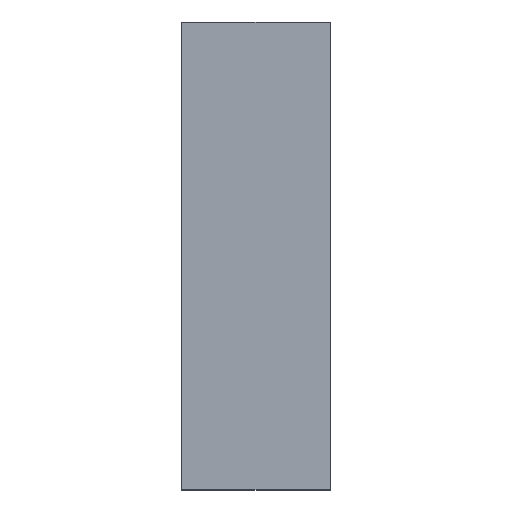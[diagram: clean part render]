
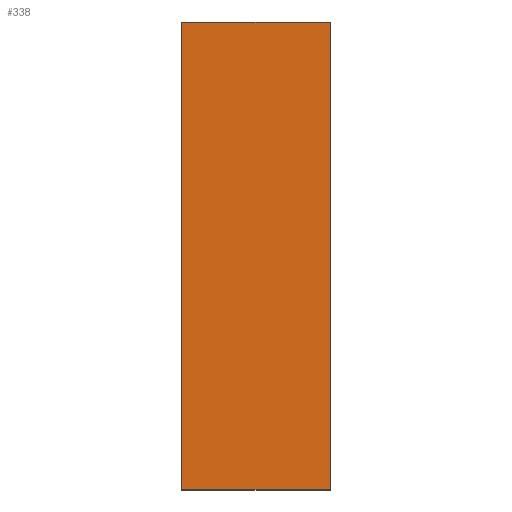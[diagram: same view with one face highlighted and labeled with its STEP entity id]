
A CAD part, top view. The second image highlights one B-rep face of the part: STEP entity #338.
In plain terms, the highlighted planar face has unit normal (0, 0, 1).
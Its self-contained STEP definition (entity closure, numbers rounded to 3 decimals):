
#24 = VERTEX_POINT('',#25);
#25 = CARTESIAN_POINT('',(130.,-138.913,79.475));
#32 = PLANE('',#33);
#33 = AXIS2_PLACEMENT_3D('',#34,#35,#36);
#34 = CARTESIAN_POINT('',(130.,-138.913,79.325));
#35 = DIRECTION('',(0.,1.,0.));
#36 = DIRECTION('',(1.,0.,0.));
#44 = PLANE('',#45);
#45 = AXIS2_PLACEMENT_3D('',#46,#47,#48);
#46 = CARTESIAN_POINT('',(130.,-94.913,79.325));
#47 = DIRECTION('',(1.,0.,-0.));
#48 = DIRECTION('',(0.,-1.,0.));
#56 = EDGE_CURVE('',#24,#57,#59,.T.);
#57 = VERTEX_POINT('',#58);
#58 = CARTESIAN_POINT('',(144.,-138.913,79.475));
#59 = SURFACE_CURVE('',#60,(#64,#71),.PCURVE_S1.);
#60 = LINE('',#61,#62);
#61 = CARTESIAN_POINT('',(130.,-138.913,79.475));
#62 = VECTOR('',#63,1.);
#63 = DIRECTION('',(1.,0.,0.));
#64 = PCURVE('',#32,#65);
#65 = DEFINITIONAL_REPRESENTATION('',(#66),#70);
#66 = LINE('',#67,#68);
#67 = CARTESIAN_POINT('',(0.,-0.15));
#68 = VECTOR('',#69,1.);
#69 = DIRECTION('',(1.,0.));
#70 = ( GEOMETRIC_REPRESENTATION_CONTEXT(2) 
PARAMETRIC_REPRESENTATION_CONTEXT() REPRESENTATION_CONTEXT('2D SPACE',''
  ) );
#71 = PCURVE('',#72,#77);
#72 = PLANE('',#73);
#73 = AXIS2_PLACEMENT_3D('',#74,#75,#76);
#74 = CARTESIAN_POINT('',(137.,-116.913,79.475));
#75 = DIRECTION('',(0.,0.,1.));
#76 = DIRECTION('',(1.,0.,-0.));
#77 = DEFINITIONAL_REPRESENTATION('',(#78),#82);
#78 = LINE('',#79,#80);
#79 = CARTESIAN_POINT('',(-7.,-22.));
#80 = VECTOR('',#81,1.);
#81 = DIRECTION('',(1.,0.));
#82 = ( GEOMETRIC_REPRESENTATION_CONTEXT(2) 
PARAMETRIC_REPRESENTATION_CONTEXT() REPRESENTATION_CONTEXT('2D SPACE',''
  ) );
#100 = PLANE('',#101);
#101 = AXIS2_PLACEMENT_3D('',#102,#103,#104);
#102 = CARTESIAN_POINT('',(144.,-138.913,79.325));
#103 = DIRECTION('',(-1.,0.,0.));
#104 = DIRECTION('',(0.,1.,0.));
#142 = EDGE_CURVE('',#57,#143,#145,.T.);
#143 = VERTEX_POINT('',#144);
#144 = CARTESIAN_POINT('',(144.,-94.913,79.475));
#145 = SURFACE_CURVE('',#146,(#150,#157),.PCURVE_S1.);
#146 = LINE('',#147,#148);
#147 = CARTESIAN_POINT('',(144.,-138.913,79.475));
#148 = VECTOR('',#149,1.);
#149 = DIRECTION('',(0.,1.,0.));
#150 = PCURVE('',#100,#151);
#151 = DEFINITIONAL_REPRESENTATION('',(#152),#156);
#152 = LINE('',#153,#154);
#153 = CARTESIAN_POINT('',(0.,-0.15));
#154 = VECTOR('',#155,1.);
#155 = DIRECTION('',(1.,0.));
#156 = ( GEOMETRIC_REPRESENTATION_CONTEXT(2) 
PARAMETRIC_REPRESENTATION_CONTEXT() REPRESENTATION_CONTEXT('2D SPACE',''
  ) );
#157 = PCURVE('',#72,#158);
#158 = DEFINITIONAL_REPRESENTATION('',(#159),#163);
#159 = LINE('',#160,#161);
#160 = CARTESIAN_POINT('',(7.,-22.));
#161 = VECTOR('',#162,1.);
#162 = DIRECTION('',(0.,1.));
#163 = ( GEOMETRIC_REPRESENTATION_CONTEXT(2) 
PARAMETRIC_REPRESENTATION_CONTEXT() REPRESENTATION_CONTEXT('2D SPACE',''
  ) );
#181 = PLANE('',#182);
#182 = AXIS2_PLACEMENT_3D('',#183,#184,#185);
#183 = CARTESIAN_POINT('',(144.,-94.913,79.325));
#184 = DIRECTION('',(0.,-1.,0.));
#185 = DIRECTION('',(-1.,0.,0.));
#218 = EDGE_CURVE('',#143,#219,#221,.T.);
#219 = VERTEX_POINT('',#220);
#220 = CARTESIAN_POINT('',(130.,-94.913,79.475));
#221 = SURFACE_CURVE('',#222,(#226,#233),.PCURVE_S1.);
#222 = LINE('',#223,#224);
#223 = CARTESIAN_POINT('',(144.,-94.913,79.475));
#224 = VECTOR('',#225,1.);
#225 = DIRECTION('',(-1.,0.,0.));
#226 = PCURVE('',#181,#227);
#227 = DEFINITIONAL_REPRESENTATION('',(#228),#232);
#228 = LINE('',#229,#230);
#229 = CARTESIAN_POINT('',(0.,-0.15));
#230 = VECTOR('',#231,1.);
#231 = DIRECTION('',(1.,0.));
#232 = ( GEOMETRIC_REPRESENTATION_CONTEXT(2) 
PARAMETRIC_REPRESENTATION_CONTEXT() REPRESENTATION_CONTEXT('2D SPACE',''
  ) );
#233 = PCURVE('',#72,#234);
#234 = DEFINITIONAL_REPRESENTATION('',(#235),#239);
#235 = LINE('',#236,#237);
#236 = CARTESIAN_POINT('',(7.,22.));
#237 = VECTOR('',#238,1.);
#238 = DIRECTION('',(-1.,0.));
#239 = ( GEOMETRIC_REPRESENTATION_CONTEXT(2) 
PARAMETRIC_REPRESENTATION_CONTEXT() REPRESENTATION_CONTEXT('2D SPACE',''
  ) );
#289 = EDGE_CURVE('',#219,#24,#290,.T.);
#290 = SURFACE_CURVE('',#291,(#295,#302),.PCURVE_S1.);
#291 = LINE('',#292,#293);
#292 = CARTESIAN_POINT('',(130.,-94.913,79.475));
#293 = VECTOR('',#294,1.);
#294 = DIRECTION('',(0.,-1.,0.));
#295 = PCURVE('',#44,#296);
#296 = DEFINITIONAL_REPRESENTATION('',(#297),#301);
#297 = LINE('',#298,#299);
#298 = CARTESIAN_POINT('',(0.,-0.15));
#299 = VECTOR('',#300,1.);
#300 = DIRECTION('',(1.,0.));
#301 = ( GEOMETRIC_REPRESENTATION_CONTEXT(2) 
PARAMETRIC_REPRESENTATION_CONTEXT() REPRESENTATION_CONTEXT('2D SPACE',''
  ) );
#302 = PCURVE('',#72,#303);
#303 = DEFINITIONAL_REPRESENTATION('',(#304),#308);
#304 = LINE('',#305,#306);
#305 = CARTESIAN_POINT('',(-7.,22.));
#306 = VECTOR('',#307,1.);
#307 = DIRECTION('',(0.,-1.));
#308 = ( GEOMETRIC_REPRESENTATION_CONTEXT(2) 
PARAMETRIC_REPRESENTATION_CONTEXT() REPRESENTATION_CONTEXT('2D SPACE',''
  ) );
#338 = ADVANCED_FACE('',(#339),#72,.T.);
#339 = FACE_BOUND('',#340,.T.);
#340 = EDGE_LOOP('',(#341,#342,#343,#344));
#341 = ORIENTED_EDGE('',*,*,#56,.T.);
#342 = ORIENTED_EDGE('',*,*,#142,.T.);
#343 = ORIENTED_EDGE('',*,*,#218,.T.);
#344 = ORIENTED_EDGE('',*,*,#289,.T.);
